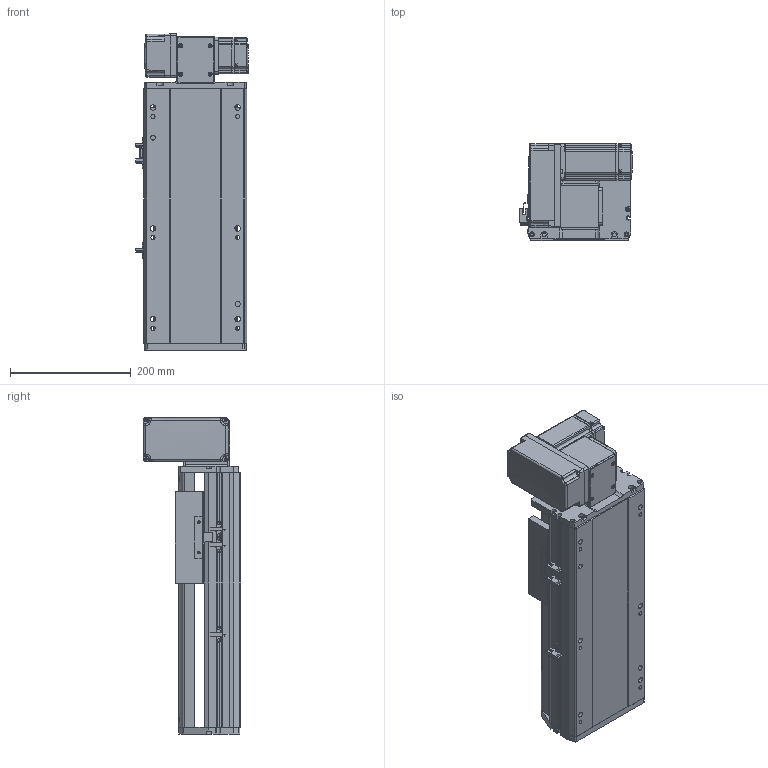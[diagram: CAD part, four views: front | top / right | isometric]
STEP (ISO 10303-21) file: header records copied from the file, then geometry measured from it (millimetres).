
FILE_DESCRIPTION (( 'STEP AP214' ), '1' );
FILE_NAME ('RTB17S-XX-150-LW-M40-C4.STEP', '2025-12-11T06:54:25', ( '' ), ( '' ), 'SwSTEP 2.0', 'SolidWorks 2018', '' );
FILE_SCHEMA (( 'AUTOMOTIVE_DESIGN' ));
Length unit declared in the file: millimetre
Products named in the file (14): RTB14-L-018P^RTB17S-LW-々湍釱蚾饜-400W_RTB17S-XX-XX-LW-M40-C4; RTB17S-L-001耜醱啣^RTB17S-XX-XX-LW-M40-C4; OMRON EE-SX672 传感器^RTB17S-XX-XX-LW-M40-C4; RTB17S-L-014-T20--々湍釱^RTB17S-LW-々湍釱蚾饜-400W_RTB17S-XX-XX-LW-M40-C4; RTB17S-XX-150-LW-M40-C4; RTB14-L-017P^RTB17S-LW-々湍釱蚾饜-400W_RTB17S-XX-XX-LW-M40-C4; RTB17S-L-007奻裔^RTB17S-XX-XX-LW-M40-C4; RTB17-R-011菁釱^RTB17S-XX-XX-LW-M40-C4; RTB14-L-005P--轴承塑胶压盖^RTB17S-LW-皮带座装配-400W_RTB17S-XX-XX-LW-M40-C4; RTB14-L-008-M20--萇儂啣^RTB17S-LW-々湍釱蚾饜-400W_RTB17S-XX-XX-LW-M40-C4; 400W侜督萇儂^RTB17S-XX-XX-LW-M40-C4; RTB17S-L-004佪裝蹟譫蟀諉釱^RTB17S-XX-XX-LW-M40-C4; RTB17S-LW-々湍釱蚾饜-400W^RTB17S-XX-XX-LW-M40-C4; RTH13-BL-012覜茼え俋离^RTB17S-XX-XX-LW-M40-C4
Assembly tree (16 placements, depth 3):
  RTB17S-XX-150-LW-M40-C4
    RTB17-R-011菁釱^RTB17S-XX-XX-LW-M40-C4
    RTB17S-L-007奻裔^RTB17S-XX-XX-LW-M40-C4
    OMRON EE-SX672 传感器^RTB17S-XX-XX-LW-M40-C4  x3
    RTB17S-L-001耜醱啣^RTB17S-XX-XX-LW-M40-C4
    400W侜督萇儂^RTB17S-XX-XX-LW-M40-C4
    RTB17S-L-004佪裝蹟譫蟀諉釱^RTB17S-XX-XX-LW-M40-C4
    RTH13-BL-012覜茼え俋离^RTB17S-XX-XX-LW-M40-C4
    RTB17S-LW-々湍釱蚾饜-400W^RTB17S-XX-XX-LW-M40-C4
      RTB17S-L-014-T20--々湍釱^RTB17S-LW-々湍釱蚾饜-400W_RTB17S-XX-XX-LW-M40-C4
      RTB14-L-005P--轴承塑胶压盖^RTB17S-LW-皮带座装配-400W_RTB17S-XX-XX-LW-M40-C4
      RTB14-L-008-M20--萇儂啣^RTB17S-LW-々湍釱蚾饜-400W_RTB17S-XX-XX-LW-M40-C4
      RTB14-L-017P^RTB17S-LW-々湍釱蚾饜-400W_RTB17S-XX-XX-LW-M40-C4  x2
      RTB14-L-018P^RTB17S-LW-々湍釱蚾饜-400W_RTB17S-XX-XX-LW-M40-C4
Bounding box: 186 x 160.5 x 522.5 mm (x, y, z)
Volume: 5442698 mm3; surface area: 742167.2 mm2
Topology: 15 solids, 15 shells, 2141 faces, 5871 edges, 3825 vertices
Faces by surface type: plane 1060, cylinder 633, bspline 301, cone 139, torus 8
Entity records: 59561 total; most frequent: CARTESIAN_POINT 16476, ORIENTED_EDGE 8586, DIRECTION 8036, EDGE_CURVE 4293, VERTEX_POINT 2813, AXIS2_PLACEMENT_3D 2743, VECTOR 2550, LINE 2550
